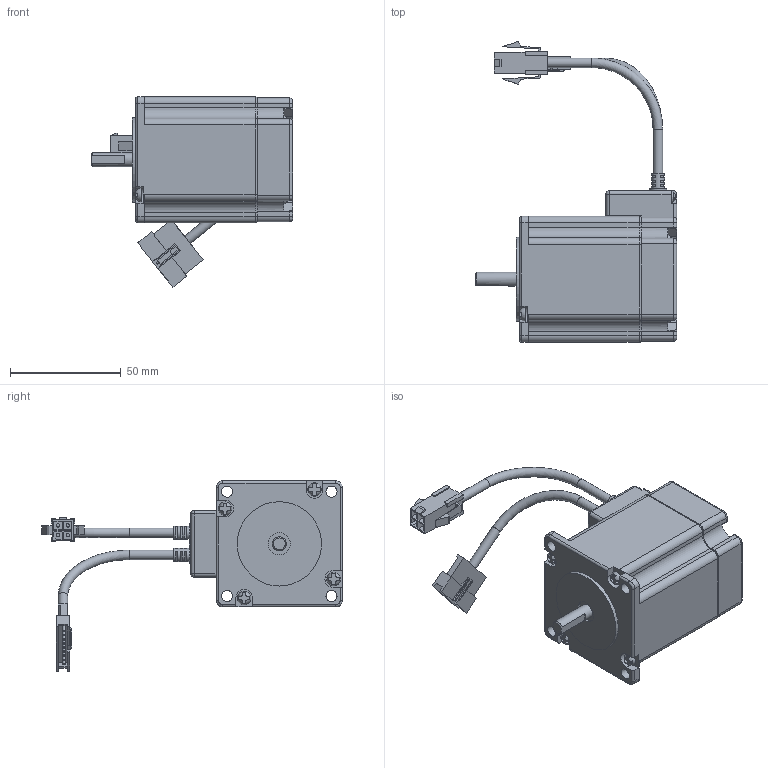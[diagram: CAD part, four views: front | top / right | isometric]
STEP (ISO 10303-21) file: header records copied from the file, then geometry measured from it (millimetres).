
FILE_DESCRIPTION(/* description */ (''),/* implementation_level */ '2;1');
FILE_NAME(/* name */ '\\EMN0D5F01\rp_inventor\RP Mechanical Design\Wiley\Updated Models\eCLM-P232A.stp',/* time_stamp */ '2016-10-27T15:17:23-07:00',/* author */ ('JDB'),/* organization */ ('Parker Hannifin Corp'),/* preprocessor_version */ 'ST-DEVELOPER v15.2',/* originating_system */ 'Autodesk Inventor 2014',/* authorisation */ '');
FILE_SCHEMA (('CONFIG_CONTROL_DESIGN'));
Length unit declared in the file: inch
Products named in the file (1): eCLM-P232A_sw
Bounding box: 91 x 135.91 x 86.05 mm (x, y, z)
Volume: 182186.6 mm3; surface area: 44225.7 mm2
Topology: 7 solids, 7 shells, 780 faces, 2009 edges, 1296 vertices
Faces by surface type: plane 511, cylinder 171, cone 42, torus 30, bspline 14, sphere 12
Full cylindrical faces by diameter (mm): 1 x9, 1.5 x4, 1.6 x4, 2.4 x3, 3 x4, 3.4 x4, 4.3 x4, 5 x4, 6 x4, 6.35 x2, 8 x1, 10 x2, 38.1 x1
Entity records: 23778 total; most frequent: CARTESIAN_POINT 4974, DIRECTION 3951, ORIENTED_EDGE 3792, EDGE_CURVE 1894, AXIS2_PLACEMENT_3D 1387, VERTEX_POINT 1261, LINE 1177, VECTOR 1177
